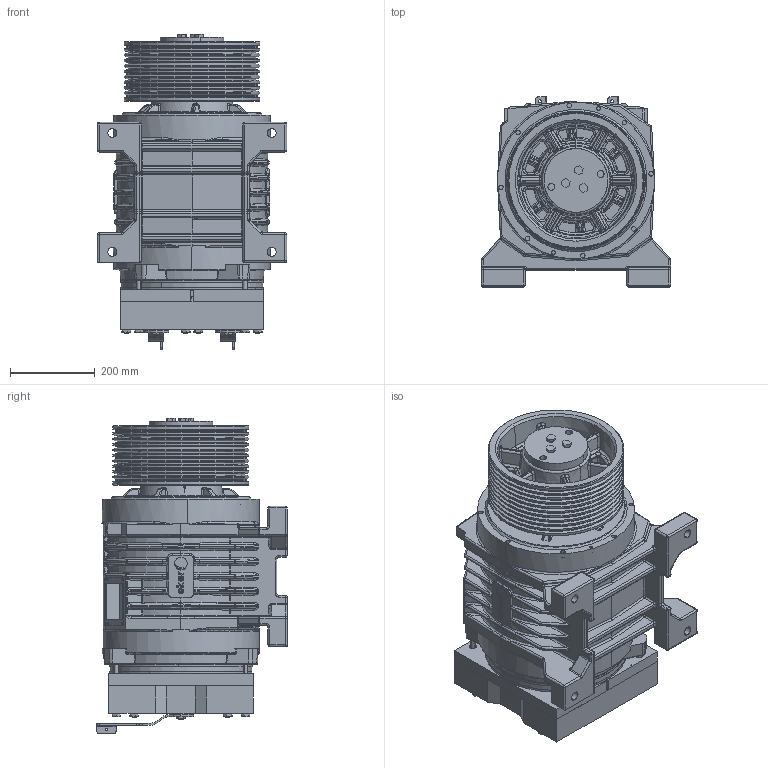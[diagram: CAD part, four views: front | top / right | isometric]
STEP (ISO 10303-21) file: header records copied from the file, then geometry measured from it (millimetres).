
FILE_DESCRIPTION (( 'STEP AP214' ), '1' );
FILE_NAME ('QS532200100.STEP', '2026-01-12T10:29:04', ( '' ), ( '' ), 'SwSTEP 2.0', 'SolidWorks 2023', '' );
FILE_SCHEMA (( 'AUTOMOTIVE_DESIGN' ));
Length unit declared in the file: millimetre
Products named in the file (1): QS532200100
Bounding box: 445.91 x 447.8 x 742.77 mm (x, y, z)
Surface area: 4219726.4 mm2 (no closed solid volume)
Topology: 0 solids, 78 shells, 3889 faces, 9186 edges, 5425 vertices
Faces by surface type: cylinder 1280, plane 992, bspline 554, cone 422, torus 332, sphere 309
Entity records: 140303 total; most frequent: CARTESIAN_POINT 54655, DIRECTION 17884, ORIENTED_EDGE 17804, EDGE_CURVE 8926, AXIS2_PLACEMENT_3D 7391, VERTEX_POINT 5380, EDGE_LOOP 4268, CIRCLE 4055
